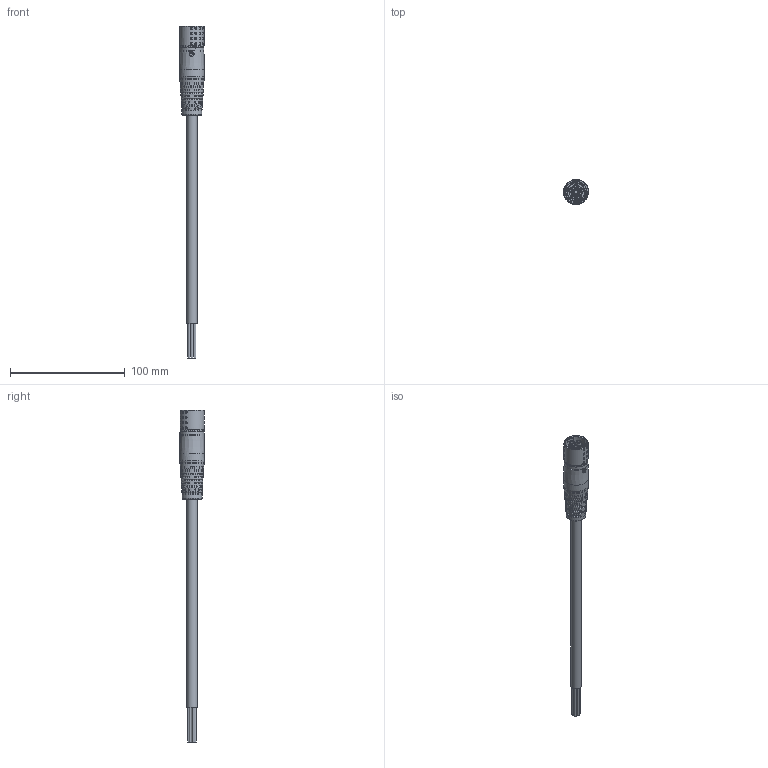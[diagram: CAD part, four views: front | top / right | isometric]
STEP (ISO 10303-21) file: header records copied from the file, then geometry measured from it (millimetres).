
FILE_DESCRIPTION (( 'STEP AP203' ), '1' );
FILE_NAME ('1146382_W-TEC_15K_GLATT_BU_STEP.STEP', '2023-09-04T06:27:09', ( '' ), ( '' ), 'SwSTEP 2.0', 'SolidWorks 2021', '' );
FILE_SCHEMA (( 'CONFIG_CONTROL_DESIGN' ));
Length unit declared in the file: millimetre
Products named in the file (1): 1146382_W-TEC_15K_GLATT_BU_STEP
Bounding box: 21.79 x 21.87 x 289.42 mm (x, y, z)
Surface area: 16361 mm2 (no closed solid volume)
Topology: 0 solids, 19 shells, 542 faces, 2098 edges, 1491 vertices
Faces by surface type: bspline 256, plane 146, cylinder 112, cone 25, torus 3
Full cylindrical faces by diameter (mm): 2 x5, 3.3 x6, 4 x1, 4.2 x3, 9.1 x1, 11.1 x1, 17.384 x1, 18.304 x1, 18.4 x1, 21.24 x1, 21.72 x1
Entity records: 40259 total; most frequent: CARTESIAN_POINT 26563, ORIENTED_EDGE 3032, EDGE_CURVE 1978, DIRECTION 1866, VERTEX_POINT 1459, B_SPLINE_CURVE_WITH_KNOTS 980, AXIS2_PLACEMENT_3D 676, EDGE_LOOP 671
